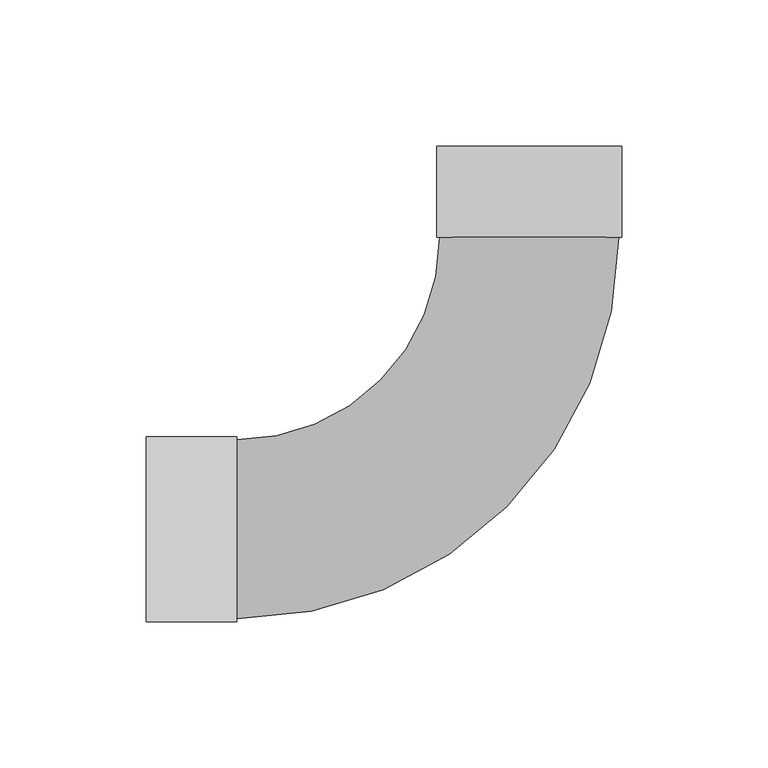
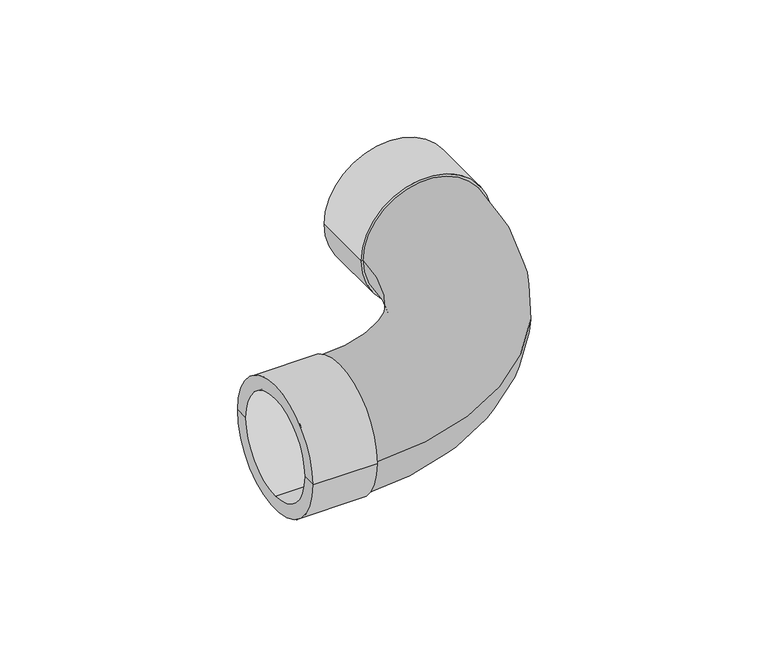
"""IFC4 building model written with IfcOpenShell, lengths in millimetres: pipe fitting geometry, PipeFitting_HTA_CPVC_Bends90° : 50mm x 90°."""

from ifc_helpers import new_model, si_unit, point, frame, origin, place, context, project, spatial, polyline, circle_curve, ellipse_curve, trimmed, source, transform, mapped, element, save
from ifc_brep_helpers import plane_surface, cylinder_surface, revolved_surface, advanced_brep


def pipe_fitting_8ab5439d(model_context):
    return source(origin(), model_context, "Body", "AdvancedBrep", [
        advanced_brep(
        [(-100.0, -30.6, 0.0), (30.6, 100.0, 0.0), (-30.6, 100.0, 0.0), (-100.0, 30.6, 0.0), (-100.0, 31.7, 0.0), (-100.0, -31.7, 0.0), (-131.1, -31.7, 0.0), (-131.1, 31.7, 0.0), (-131.1, -25.0, 0.0), (-131.1, 0.0, -25.0), (-131.1, 25.0, 0.0), (-131.1, 0.0, 25.0), (-31.7, 100.0, 0.0), (31.7, 100.0, 0.0), (31.7, 131.1, 0.0), (-31.7, 131.1, 0.0), (-25.0, 131.1, 0.0), (0.0, 131.1, -25.0), (25.0, 131.1, 0.0), (0.0, 131.1, 25.0), (0.0, 100.0, -25.0), (0.0, 100.0, 25.0), (-100.0, 0.0, -25.0), (-100.0, 0.0, 25.0)],
        [
            (0, 1, circle_curve(frame((-100.0, 100.0, 0.0), z_axis=(0.0, 0.0, 1.0), x_axis=(1.0, 0.0, 0.0)), 130.6)),
            (1, 2, circle_curve(frame((0.0, 100.0, 0.0), z_axis=(0.0, -1.0, 0.0), x_axis=(1.0, 0.0, 0.0)), 30.6)),
            (2, 3, circle_curve(frame((-100.0, 100.0, 0.0), z_axis=(0.0, 0.0, -1.0), x_axis=(1.0, 0.0, 0.0)), 69.4)),
            (3, 0, circle_curve(frame((-100.0, 0.0, 0.0), z_axis=(1.0, 0.0, 0.0), x_axis=(0.0, -1.0, 0.0)), 30.6)),
            (0, 3, circle_curve(frame((-100.0, 0.0, 0.0), z_axis=(1.0, 0.0, 0.0), x_axis=(0.0, -1.0, 0.0)), 30.6)),
            (2, 1, circle_curve(frame((0.0, 100.0, 0.0), z_axis=(0.0, -1.0, 0.0), x_axis=(1.0, 0.0, 0.0)), 30.6)),
            (4, 5, circle_curve(frame((-100.0, 0.0, 0.0), z_axis=(-1.0, 0.0, 0.0), x_axis=(0.0, -1.0, 0.0)), 31.7)),
            (5, 6),
            (6, 7, circle_curve(frame((-131.1, 0.0, 0.0), z_axis=(1.0, 0.0, 0.0), x_axis=(0.0, -1.0, 0.0)), 31.7)),
            (7, 4),
            (5, 4, circle_curve(frame((-100.0, 0.0, 0.0), z_axis=(-1.0, 0.0, 0.0), x_axis=(0.0, -1.0, 0.0)), 31.7)),
            (7, 6, circle_curve(frame((-131.1, 0.0, 0.0), z_axis=(1.0, 0.0, 0.0), x_axis=(0.0, -1.0, 0.0)), 31.7)),
            (4, 3),
            (0, 5),
            (6, 8),
            (8, 9, circle_curve(frame((-131.1, 0.0, 0.0), z_axis=(1.0, 0.0, 0.0), x_axis=(0.0, 0.0, 1.0)), 25.0)),
            (9, 10, circle_curve(frame((-131.1, 0.0, 0.0), z_axis=(1.0, 0.0, 0.0), x_axis=(0.0, 0.0, 1.0)), 25.0)),
            (10, 7),
            (10, 11, circle_curve(frame((-131.1, 0.0, 0.0), z_axis=(1.0, 0.0, 0.0), x_axis=(0.0, 0.0, 1.0)), 25.0)),
            (11, 8, circle_curve(frame((-131.1, 0.0, 0.0), z_axis=(1.0, 0.0, 0.0), x_axis=(0.0, 0.0, 1.0)), 25.0)),
            (12, 13, circle_curve(frame((0.0, 100.0, 0.0), z_axis=(0.0, -1.0, 0.0), x_axis=(-1.0, 0.0, 0.0)), 31.7)),
            (13, 1),
            (2, 12),
            (13, 12, circle_curve(frame((0.0, 100.0, 0.0), z_axis=(0.0, -1.0, 0.0), x_axis=(-1.0, 0.0, 0.0)), 31.7)),
            (14, 15, circle_curve(frame((0.0, 131.1, 0.0), z_axis=(0.0, 1.0, 0.0), x_axis=(-1.0, 0.0, 0.0)), 31.7)),
            (15, 16),
            (16, 17, circle_curve(frame((0.0, 131.1, 0.0), z_axis=(0.0, -1.0, 0.0), x_axis=(0.0, 0.0, 1.0)), 25.0)),
            (17, 18, circle_curve(frame((0.0, 131.1, 0.0), z_axis=(0.0, -1.0, 0.0), x_axis=(0.0, 0.0, 1.0)), 25.0)),
            (18, 14),
            (15, 14, circle_curve(frame((0.0, 131.1, 0.0), z_axis=(0.0, 1.0, 0.0), x_axis=(-1.0, 0.0, 0.0)), 31.7)),
            (18, 19, circle_curve(frame((0.0, 131.1, 0.0), z_axis=(0.0, -1.0, 0.0), x_axis=(0.0, 0.0, 1.0)), 25.0)),
            (19, 16, circle_curve(frame((0.0, 131.1, 0.0), z_axis=(0.0, -1.0, 0.0), x_axis=(0.0, 0.0, 1.0)), 25.0)),
            (12, 15),
            (14, 13),
            (20, 21, circle_curve(frame((0.0, 100.0, 0.0), z_axis=(0.0, 1.0, 0.0), x_axis=(0.0, 0.0, 1.0)), 25.0)),
            (21, 20, circle_curve(frame((0.0, 100.0, 0.0), z_axis=(0.0, 1.0, 0.0), x_axis=(0.0, 0.0, 1.0)), 25.0)),
            (21, 19),
            (17, 20),
            (22, 23, circle_curve(frame((-100.0, 0.0, 0.0), z_axis=(-1.0, 0.0, 0.0), x_axis=(0.0, 0.0, 1.0)), 25.0)),
            (23, 22, circle_curve(frame((-100.0, 0.0, 0.0), z_axis=(-1.0, 0.0, 0.0), x_axis=(0.0, 0.0, 1.0)), 25.0)),
            (23, 11),
            (9, 22),
        ],
        [
            revolved_surface(trimmed(ellipse_curve(frame((0.0, 100.0, 0.0), z_axis=(0.0, 1.0, 0.0), x_axis=(1.0, 0.0, 0.0)), 30.6, 30.6), [point((-30.6, 100.0, 0.0))], [point((30.6, 100.0, 0.0))], True, "CARTESIAN"), (-100.0, 100.0, 0.0), (0.0, 0.0, -1.0)),
            revolved_surface(trimmed(ellipse_curve(frame((0.0, 100.0, 0.0), z_axis=(0.0, 1.0, 0.0), x_axis=(1.0, 0.0, 0.0)), 30.6, 30.6), [point((30.6, 100.0, 0.0))], [point((-30.6, 100.0, 0.0))], True, "CARTESIAN"), (-100.0, 100.0, 0.0), (0.0, 0.0, -1.0)),
            cylinder_surface(frame((-100.0, 0.0, 0.0), z_axis=(1.0, 0.0, 0.0), x_axis=(0.0, -1.0, 0.0)), 31.7),
            plane_surface(frame((-100.0, 0.0, 0.0), z_axis=(1.0, 0.0, 0.0), x_axis=(0.0, -1.0, 0.0))),
            plane_surface(frame((-131.1, 0.0, 0.0), z_axis=(-1.0, 0.0, 0.0), x_axis=(0.0, -1.0, 0.0))),
            plane_surface(frame((0.0, 100.0, 0.0), z_axis=(0.0, -1.0, 0.0), x_axis=(-1.0, 0.0, 0.0))),
            plane_surface(frame((0.0, 131.1, 0.0), z_axis=(0.0, 1.0, 0.0), x_axis=(-1.0, 0.0, 0.0))),
            cylinder_surface(frame((0.0, 131.1, 0.0), z_axis=(0.0, -1.0, 0.0), x_axis=(-1.0, 0.0, 0.0)), 31.7),
            plane_surface(frame((0.0, 100.0, 25.0), z_axis=(0.0, 1.0, 0.0), x_axis=(-1.0, 0.0, 0.0))),
            revolved_surface(polyline([(0.0, 100.0, 25.0), (0.0, 131.1, 25.0)]), (0.0, 131.1, 0.0), (0.0, -1.0, 0.0)),
            plane_surface(frame((-100.0, 0.0, 25.0), z_axis=(-1.0, 0.0, 0.0), x_axis=(0.0, -1.0, 0.0))),
            revolved_surface(polyline([(-100.0, 0.0, 25.0), (-131.1, 0.0, 25.0)]), (-131.1, 0.0, 0.0), (1.0, 0.0, 0.0)),
        ],
        [
            (0, [[1, 2, 3, 4]]),
            (1, [[-1, 5, -3, 6]]),
            (2, [[7, 8, 9, 10]]),
            (2, [[-8, 11, -10, 12]]),
            (3, [[-7, 13, -5, 14]]),
            (3, [[-11, -14, -4, -13]]),
            (4, [[-9, 15, 16, 17, 18]]),
            (4, [[-12, -18, 19, 20, -15]]),
            (5, [[21, 22, -6, 23]]),
            (5, [[24, -23, -2, -22]]),
            (6, [[25, 26, 27, 28, 29]]),
            (6, [[30, -29, 31, 32, -26]]),
            (7, [[-21, 33, -25, 34]]),
            (7, [[-24, -34, -30, -33]]),
            (8, [[35, 36]]),
            (9, [[-36, 37, -31, -28, 38]]),
            (9, [[-35, -38, -27, -32, -37]]),
            (10, [[39, 40]]),
            (11, [[-40, 41, -19, -17, 42]]),
            (11, [[-39, -42, -16, -20, -41]]),
        ],
    ),
    ])


if __name__ == "__main__":
    model = new_model("IFC4")
    model_context = context("Model", 3, world=origin())
    ifc_project = project(units=[si_unit("LENGTHUNIT", "METRE", prefix="MILLI")], contexts=[model_context])
    site = spatial("IfcSite", under=ifc_project)
    building = spatial("IfcBuilding", under=site)
    placement = place(None, origin())
    pipe_fitting_shape = pipe_fitting_8ab5439d(model_context)
    element("IfcPipeFitting", 1, ObjectType="PipeFitting_HTA_CPVC_Bends90° : 50mm x 90°", at=placement, inside=building, context=model_context, shape_type="MappedRepresentation", body=[
        mapped(pipe_fitting_shape, transform((0.0, 0.0, 0.0), x_axis=(1.0, 0.0, 0.0), y_axis=(0.0, 1.0, 0.0), z_axis=(0.0, 0.0, 1.0))),
    ])
    save(model, "model.ifc")
